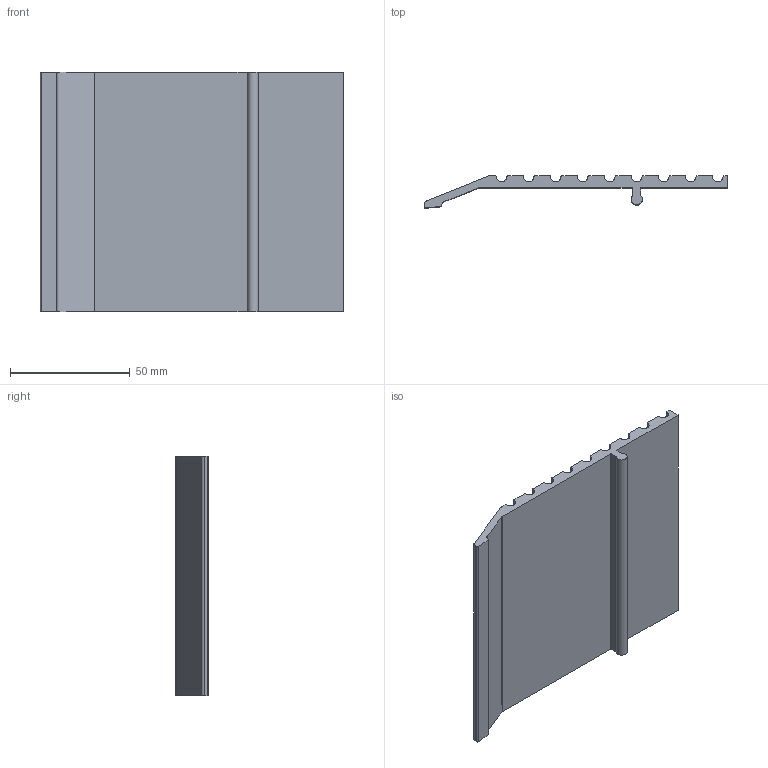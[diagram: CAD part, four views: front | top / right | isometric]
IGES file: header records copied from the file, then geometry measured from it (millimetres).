
Global section: file name: No Iges File Name specified; native system: Autodesk Inventor 2012; preprocessor: AutoDesk Inventor Iges Exporter R2012; author: anna.b; date: 20130718.122003; units: millimetre
Bounding box: 127 x 13.46 x 100 mm (x, y, z)
Volume: 54571.8 mm3; surface area: 31601.7 mm2
Topology: 1 solids, 1 shells, 60 faces, 174 edges, 116 vertices
Faces by surface type: cylinder 23, plane 22, revolution 15
